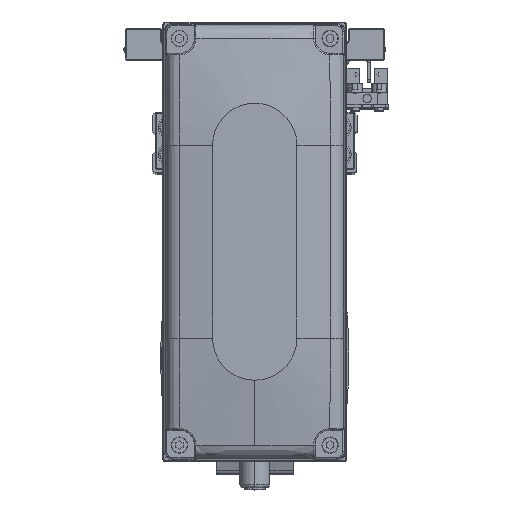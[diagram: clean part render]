
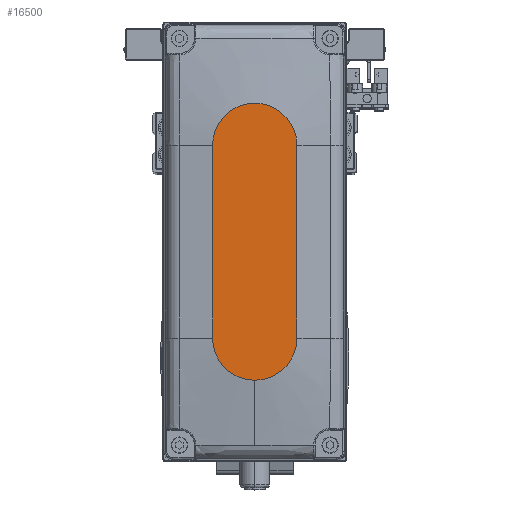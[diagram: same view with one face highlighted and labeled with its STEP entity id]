
A CAD part, top view. The second image highlights one B-rep face of the part: STEP entity #16500.
In plain terms, the highlighted planar face has unit normal (0, 0, 1).
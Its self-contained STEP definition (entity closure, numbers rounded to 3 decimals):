
#1456 = VECTOR ( 'NONE', #30131, 1000. ) ;
#2845 = LINE ( 'NONE', #16499, #1456 ) ;
#3258 = AXIS2_PLACEMENT_3D ( 'NONE', #13414, #27062, #40672 ) ;
#3903 = VECTOR ( 'NONE', #40041, 1000. ) ;
#5772 = ORIENTED_EDGE ( 'NONE', *, *, #20415, .T. ) ;
#6380 = ORIENTED_EDGE ( 'NONE', *, *, #35127, .T. ) ;
#6759 = ORIENTED_EDGE ( 'NONE', *, *, #9835, .T. ) ;
#7965 = DIRECTION ( 'NONE',  ( 0., 0., 1. ) ) ;
#8611 = AXIS2_PLACEMENT_3D ( 'NONE', #28316, #7965, #21596 ) ;
#8826 = VERTEX_POINT ( 'NONE', #25554 ) ;
#9835 = EDGE_CURVE ( 'NONE', #35617, #30928, #2845, .T. ) ;
#10416 = DIRECTION ( 'NONE',  ( 1., 0., 0. ) ) ;
#12760 = LINE ( 'NONE', #26408, #3903 ) ;
#13304 = CARTESIAN_POINT ( 'NONE',  ( 0., 0., 35. ) ) ;
#13414 = CARTESIAN_POINT ( 'NONE',  ( 32., 0., 35. ) ) ;
#16499 = CARTESIAN_POINT ( 'NONE',  ( -32., -14., 35. ) ) ;
#16500 = ADVANCED_FACE ( 'NONE', ( #30294 ), #43920, .T. ) ;
#16840 = CIRCLE ( 'NONE', #3258, 14. ) ;
#17393 = EDGE_CURVE ( 'NONE', #30928, #28804, #16840, .T. ) ;
#19872 = EDGE_LOOP ( 'NONE', ( #6380, #35948, #6759, #28566, #5772 ) ) ;
#20415 = EDGE_CURVE ( 'NONE', #28804, #42110, #37413, .T. ) ;
#21596 = DIRECTION ( 'NONE',  ( 1., 0., 0. ) ) ;
#23762 = CARTESIAN_POINT ( 'NONE',  ( 32., -14., 35. ) ) ;
#24505 = CARTESIAN_POINT ( 'NONE',  ( 46., 0., 35. ) ) ;
#25554 = CARTESIAN_POINT ( 'NONE',  ( -32., 14., 35. ) ) ;
#25858 = EDGE_CURVE ( 'NONE', #8826, #35617, #27901, .T. ) ;
#26408 = CARTESIAN_POINT ( 'NONE',  ( -32., 14., 35. ) ) ;
#26955 = DIRECTION ( 'NONE',  ( 0., 0., 1. ) ) ;
#27062 = DIRECTION ( 'NONE',  ( 0., 0., 1. ) ) ;
#27433 = CARTESIAN_POINT ( 'NONE',  ( 32., 0., 35. ) ) ;
#27901 = CIRCLE ( 'NONE', #8611, 14. ) ;
#28316 = CARTESIAN_POINT ( 'NONE',  ( -32., 0., 35. ) ) ;
#28566 = ORIENTED_EDGE ( 'NONE', *, *, #17393, .T. ) ;
#28804 = VERTEX_POINT ( 'NONE', #24505 ) ;
#30131 = DIRECTION ( 'NONE',  ( 1., 0., 0. ) ) ;
#30294 = FACE_OUTER_BOUND ( 'NONE', #19872, .T. ) ;
#30569 = CARTESIAN_POINT ( 'NONE',  ( -32., -14., 35. ) ) ;
#30928 = VERTEX_POINT ( 'NONE', #23762 ) ;
#31170 = AXIS2_PLACEMENT_3D ( 'NONE', #13304, #26955, #40561 ) ;
#35127 = EDGE_CURVE ( 'NONE', #42110, #8826, #12760, .T. ) ;
#35617 = VERTEX_POINT ( 'NONE', #30569 ) ;
#35948 = ORIENTED_EDGE ( 'NONE', *, *, #25858, .T. ) ;
#37413 = CIRCLE ( 'NONE', #43125, 14. ) ;
#40041 = DIRECTION ( 'NONE',  ( -1., 0., 0. ) ) ;
#40561 = DIRECTION ( 'NONE',  ( 1., 0., 0. ) ) ;
#40672 = DIRECTION ( 'NONE',  ( 1., 0., 0. ) ) ;
#41042 = DIRECTION ( 'NONE',  ( 0., 0., 1. ) ) ;
#42110 = VERTEX_POINT ( 'NONE', #42200 ) ;
#42200 = CARTESIAN_POINT ( 'NONE',  ( 32., 14., 35. ) ) ;
#43125 = AXIS2_PLACEMENT_3D ( 'NONE', #27433, #41042, #10416 ) ;
#43920 = PLANE ( 'NONE',  #31170 ) ;
